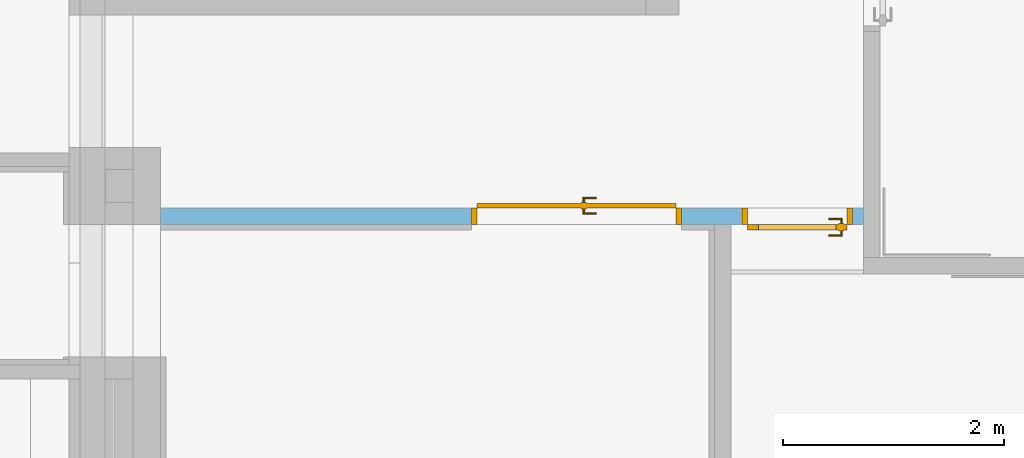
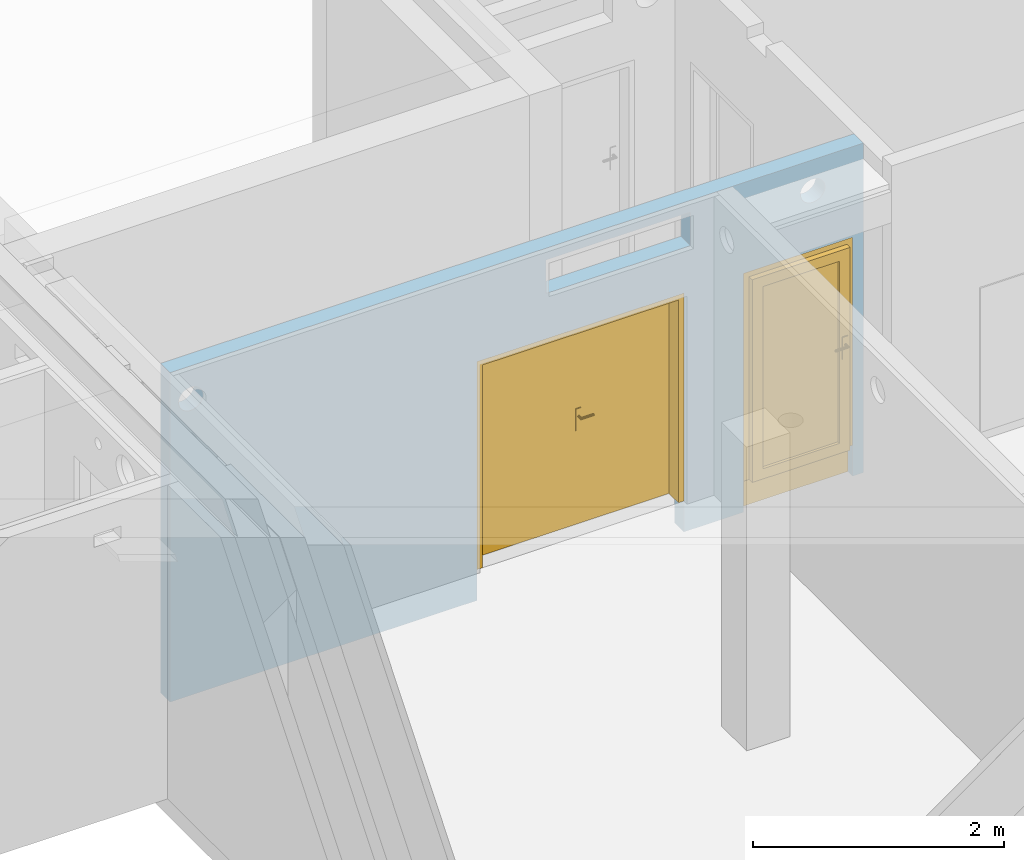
# One storey, part 72 of 84: 2 doors, 5 openings, plus 1 element that does not belong to this part.
"""IFC4 building model written with IfcOpenShell, lengths in metres."""

from ifc_helpers import new_model, entity, si_unit, converted_unit, derived_unit, frame, frame_2d, origin, origin_with_axes, place, context, subcontext, project, spatial, polyline, rectangle, outline, extrude, closed_shell, open_shell, surface_model, source, transform, mapped, material, layer, layer_set, layer_usage, type_object, element, fill, save


model = new_model("IFC4")

# Units and contexts
model_context = context("Model", 3, precision=1e-05, world=origin())
body_context = subcontext(model_context, "Body", "Model", "MODEL_VIEW")
ifc_project = project(units=[si_unit("LENGTHUNIT", "METRE"), si_unit("AREAUNIT", "SQUARE_METRE"), si_unit("VOLUMEUNIT", "CUBIC_METRE"), si_unit("MASSUNIT", "GRAM", prefix="KILO"), converted_unit("PLANEANGLEUNIT", "DEGREE", entity("IfcPlaneAngleMeasure", 0.0174532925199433), si_unit("PLANEANGLEUNIT", "RADIAN"), dimensions=[0, 0, 0, 0, 0, 0, 0]), derived_unit("THERMALTRANSMITTANCEUNIT", [(si_unit("POWERUNIT", "WATT"), 1), (si_unit("THERMODYNAMICTEMPERATUREUNIT", "KELVIN"), -1), (si_unit("LENGTHUNIT", "METRE"), -2)]), derived_unit("VOLUMETRICFLOWRATEUNIT", [(si_unit("LENGTHUNIT", "METRE"), 3), (converted_unit("TIMEUNIT", "hour", entity("IfcTimeMeasure", 3600.0), si_unit("TIMEUNIT", "SECOND"), dimensions=[0, 0, 1, 0, 0, 0, 0]), -1), (si_unit("LENGTHUNIT", "METRE"), -1)])], contexts=[model_context])

# Site, building, storey
site_placement = place(None, origin())
site = spatial("IfcSite", under=ifc_project, at=site_placement, Name="3. ASŘ", CompositionType="ELEMENT")
building_placement = place(site_placement, origin())
building = spatial("IfcBuilding", under=site, at=building_placement, Name="Pavilon C", CompositionType="ELEMENT")
storey_placement = place(building_placement, frame((0.0, 0.0, -3.3)))
storey = spatial("IfcBuildingStorey", under=building, at=storey_placement, Name="Půdorys 1.PP", CompositionType="ELEMENT", Elevation=-3.3)

# Wall, openings, doors
ifc_material = material(Name="SDK - 1 KCE + DVOJITÉ OPLÁŠTĚNÍ")
ifc_layer = layer(ifc_material, 0.15)
ifc_layer_set = layer_set([ifc_layer])
ifc_layer_usage = layer_usage(ifc_layer_set, "AXIS2", "POSITIVE", 0.0)
wall_placement = place(storey_placement, frame((58.35, 13.0, -0.3), z_axis=(0.0, 0.0, 1.0), x_axis=(-1.0, 0.0, 0.0)))
wall = element("IfcWall", 1, at=wall_placement, inside=storey, material=ifc_layer_usage, Name="SDK - 1 KCE + DVOJITÉ OPLÁŠTĚNÍ", context=body_context, shape_type="SweptSolid", body=[
    extrude(rectangle(XDim=6.36999999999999, YDim=0.15, at=frame_2d((3.18499999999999, 0.075), x_axis=(1.0, 0.0))), origin_with_axes(), (0.0, 0.0, 1.0), 3.2),
])
opening_1_placement = place(wall_placement, frame((1.1, 0.15, 0.0), z_axis=(0.0, -1.0, 0.0), x_axis=(0.0, 0.0, 1.0)))
opening_1 = element("IfcOpeningElement", 2, at=opening_1_placement, cuts=wall, Name="Dveřní otvor", ObjectType="Opening", context=body_context, shape_type="SweptSolid", body=[
    extrude(outline(polyline([(0.0, 1.0), (2.32, 1.0), (2.32, 0.0), (0.0, 0.0), (0.0, 1.0)])), origin_with_axes(), (0.0, 0.0, 1.0), 0.15),
])
opening_2_placement = place(wall_placement, frame((1.65, 0.0, 0.0), z_axis=(0.0, 1.0, 0.0), x_axis=(0.0, 0.0, 1.0)))
opening_2 = element("IfcOpeningElement", 3, at=opening_2_placement, cuts=wall, Name="Dveřní otvor", ObjectType="Opening", context=body_context, shape_type="SweptSolid", body=[
    extrude(outline(polyline([(0.0, 1.9), (2.32, 1.9), (2.32, 0.0), (0.0, 0.0), (0.0, 1.9)])), origin_with_axes(), (0.0, 0.0, 1.0), 0.15),
])
opening_3_placement = place(wall_placement, frame((1.59002042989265, 0.0, 2.76), z_axis=(0.0, 1.0, 0.0), x_axis=(0.0, 0.0, 1.0)))
element("IfcOpeningElement", 4, at=opening_3_placement, cuts=wall, Name="VZT", ObjectType="Opening", context=body_context, shape_type="SweptSolid", body=[
    extrude(outline(polyline([(0.0, 1.325), (0.325, 1.325), (0.325, 0.0), (0.0, 0.0), (0.0, 1.325)])), origin_with_axes(), (0.0, 0.0, 1.0), 0.15),
])
opening_4_placement = place(wall_placement, frame((0.353467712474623, 0.0, 2.7875), z_axis=(0.0, 1.0, 0.0), x_axis=(0.0, 0.0, 1.0)))
element("IfcOpeningElement", 5, at=opening_4_placement, cuts=wall, Name="VZT", ObjectType="Opening", context=body_context, shape_type="SweptSolid", body=[
    extrude(outline(polyline([(0.1125, 0.225), (0.124259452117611, 0.224383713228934), (0.135890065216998, 0.222541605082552), (0.147264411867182, 0.219493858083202), (0.158257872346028, 0.215273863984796), (0.16875, 0.209927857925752), (0.178625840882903, 0.203514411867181), (0.187777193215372, 0.196103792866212), (0.196103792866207, 0.18777719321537), (0.203514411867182, 0.178625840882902), (0.209927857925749, 0.16875), (0.215273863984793, 0.158257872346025), (0.219493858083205, 0.147264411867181), (0.222541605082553, 0.135890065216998), (0.224383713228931, 0.124259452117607), (0.225, 0.1125), (0.224383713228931, 0.100740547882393), (0.222541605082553, 0.0891099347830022), (0.219493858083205, 0.0777355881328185), (0.215273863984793, 0.0667421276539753), (0.209927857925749, 0.05625), (0.203514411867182, 0.0463741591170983), (0.196103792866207, 0.0372228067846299), (0.187777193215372, 0.0288962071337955), (0.178625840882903, 0.0214855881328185), (0.16875, 0.0150721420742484), (0.158257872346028, 0.00972613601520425), (0.147264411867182, 0.00550614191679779), (0.135890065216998, 0.00245839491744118), (0.124259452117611, 0.00061628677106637), (0.1125, 0.0), (0.100740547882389, 0.00061628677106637), (0.089109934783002, 0.00245839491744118), (0.0777355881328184, 0.00550614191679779), (0.0667421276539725, 0.00972613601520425), (0.05625, 0.0150721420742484), (0.0463741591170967, 0.0214855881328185), (0.0372228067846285, 0.0288962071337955), (0.0288962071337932, 0.0372228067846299), (0.0214855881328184, 0.0463741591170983), (0.0150721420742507, 0.05625), (0.00972613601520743, 0.0667421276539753), (0.00550614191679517, 0.0777355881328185), (0.00245839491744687, 0.0891099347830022), (0.000616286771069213, 0.100740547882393), (0.0, 0.1125), (0.000616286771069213, 0.124259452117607), (0.00245839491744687, 0.135890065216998), (0.00550614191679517, 0.147264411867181), (0.00972613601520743, 0.158257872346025), (0.0150721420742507, 0.16875), (0.0214855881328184, 0.178625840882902), (0.0288962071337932, 0.18777719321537), (0.0372228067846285, 0.196103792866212), (0.0463741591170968, 0.203514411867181), (0.05625, 0.209927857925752), (0.0667421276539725, 0.215273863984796), (0.0777355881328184, 0.219493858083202), (0.089109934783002, 0.222541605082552), (0.100740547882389, 0.224383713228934), (0.1125, 0.225)])), origin_with_axes(), (0.0, 0.0, 1.0), 0.15),
])
opening_5_placement = place(wall_placement, frame((6.0664062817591, 0.0, 2.7675), z_axis=(0.0, 1.0, 0.0), x_axis=(0.0, 0.0, 1.0)))
element("IfcOpeningElement", 6, at=opening_5_placement, cuts=wall, Name="VZT", ObjectType="Opening", context=body_context, shape_type="SweptSolid", body=[
    extrude(outline(polyline([(0.112499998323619, 0.225), (0.124259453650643, 0.2243837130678), (0.135890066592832, 0.222541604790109), (0.147264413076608, 0.219493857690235), (0.158257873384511, 0.21527386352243), (0.168750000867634, 0.209927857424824), (0.178625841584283, 0.203514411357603), (0.187777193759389, 0.196103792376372), (0.196103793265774, 0.187777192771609), (0.203514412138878, 0.178625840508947), (0.209927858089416, 0.168749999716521), (0.215273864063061, 0.158257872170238), (0.219493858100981, 0.147264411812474), (0.222541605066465, 0.13589006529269), (0.224383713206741, 0.124259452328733), (0.225, 0.112500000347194), (0.224383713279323, 0.100740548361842), (0.222541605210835, 0.0891099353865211), (0.219493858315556, 0.0777355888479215), (0.21527386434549, 0.0667421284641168), (0.209927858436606, 0.0562500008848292), (0.203514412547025, 0.0463741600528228), (0.196103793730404, 0.0372228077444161), (0.187777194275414, 0.0288962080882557), (0.178625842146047, 0.0214855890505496), (0.168750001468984, 0.0150721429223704), (0.158257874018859, 0.0097261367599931), (0.147264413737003, 0.00550614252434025), (0.135890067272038, 0.00245839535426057), (0.124259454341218, 0.000616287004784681), (0.11249999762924, 0.0), (0.100740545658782, 0.000616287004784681), (0.089109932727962, 0.00245839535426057), (0.0777355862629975, 0.00550614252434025), (0.0667421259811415, 0.0097261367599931), (0.0562499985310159, 0.0150721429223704), (0.0463741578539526, 0.0214855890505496), (0.0372228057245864, 0.0288962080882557), (0.0288962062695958, 0.0372228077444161), (0.0214855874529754, 0.0463741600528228), (0.015072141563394, 0.0562500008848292), (0.0097261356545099, 0.0667421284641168), (0.00550614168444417, 0.0777355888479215), (0.00245839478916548, 0.0891099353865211), (0.000616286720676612, 0.100740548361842), (0.0, 0.112500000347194), (0.000616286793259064, 0.124259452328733), (0.00245839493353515, 0.13589006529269), (0.00550614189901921, 0.147264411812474), (0.0097261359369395, 0.158257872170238), (0.0150721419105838, 0.168749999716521), (0.0214855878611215, 0.178625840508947), (0.0288962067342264, 0.187777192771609), (0.0372228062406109, 0.196103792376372), (0.0463741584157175, 0.203514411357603), (0.0562499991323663, 0.209927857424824), (0.0667421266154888, 0.21527386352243), (0.0777355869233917, 0.219493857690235), (0.0891099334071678, 0.222541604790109), (0.100740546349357, 0.2243837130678), (0.112499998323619, 0.225)])), origin_with_axes(), (0.0, 0.0, 1.0), 0.15),
])
door_type_1 = type_object("IfcDoorType", Name="I.D038", OperationType="NOTDEFINED", ParameterTakesPrecedence=False, PredefinedType="DOOR")
shared_shape_1 = source(origin_with_axes(), body_context, "Body", "SurfaceModel", [
    surface_model("IfcShellBasedSurfaceModel", [(0.0, 0.0749999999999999, 0.0), (1.0, 0.0749999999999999, 0.0), (1.0, 0.075, 0.3), (0.0, 0.075, 0.3)], [open_shell([[[0, 1, 2, 3]]], orient=[[False]])]),
    surface_model("IfcShellBasedSurfaceModel", [(0.0, 0.15, 2.32), (0.0, 0.15, 0.301), (0.05, 0.15, 0.301), (0.05, 0.15, 2.32), (0.0, 0.0, 0.301), (0.0, 2.55795384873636e-16, 2.32), (0.05, 2.55795384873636e-16, 2.32), (0.05, 0.0, 0.301)], [closed_shell([[[0, 1, 2, 3]], [[4, 5, 6, 7]], [[1, 0, 5, 4]], [[2, 1, 4, 7]], [[3, 2, 7, 6]], [[0, 3, 6, 5]]], orient=[[False], [False], [False], [False], [False], [False]])]),
    surface_model("IfcShellBasedSurfaceModel", [(0.95, 0.15, 2.32), (0.95, 0.15, 0.301), (1.0, 0.15, 0.301), (1.0, 0.15, 2.32), (0.95, 0.0, 0.301), (0.95, 2.55795384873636e-16, 2.32), (1.0, 2.55795384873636e-16, 2.32), (1.0, 0.0, 0.301)], [closed_shell([[[0, 1, 2, 3]], [[4, 5, 6, 7]], [[1, 0, 5, 4]], [[2, 1, 4, 7]], [[3, 2, 7, 6]], [[0, 3, 6, 5]]], orient=[[False], [False], [False], [False], [False], [False]])]),
    surface_model("IfcShellBasedSurfaceModel", [(0.05, 0.15, 2.32), (0.05, 0.15, 2.27), (0.95, 0.15, 2.27), (0.95, 0.15, 2.32), (0.05, 2.27373675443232e-16, 2.27), (0.05, 2.27373675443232e-16, 2.32), (0.95, 2.27373675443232e-16, 2.32), (0.95, 2.27373675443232e-16, 2.27)], [closed_shell([[[0, 1, 2, 3]], [[4, 5, 6, 7]], [[1, 0, 5, 4]], [[2, 1, 4, 7]], [[3, 2, 7, 6]], [[0, 3, 6, 5]]], orient=[[False], [False], [False], [False], [False], [False]])]),
    surface_model("IfcShellBasedSurfaceModel", [(0.05, 0.2, 2.27), (0.05, 0.2, 0.301), (0.15, 0.2, 0.301), (0.15, 0.2, 2.27), (0.05, 0.15, 0.301), (0.05, 0.15, 2.27), (0.15, 0.15, 2.27), (0.15, 0.15, 0.301)], [closed_shell([[[0, 1, 2, 3]], [[4, 5, 6, 7]], [[1, 0, 5, 4]], [[2, 1, 4, 7]], [[3, 2, 7, 6]], [[0, 3, 6, 5]]], orient=[[False], [False], [False], [False], [False], [False]])]),
    surface_model("IfcShellBasedSurfaceModel", [(0.85, 0.2, 2.27), (0.85, 0.2, 0.301), (0.95, 0.2, 0.301), (0.95, 0.2, 2.27), (0.85, 0.15, 0.301), (0.85, 0.15, 2.27), (0.95, 0.15, 2.27), (0.95, 0.15, 0.301)], [closed_shell([[[0, 1, 2, 3]], [[4, 5, 6, 7]], [[1, 0, 5, 4]], [[2, 1, 4, 7]], [[3, 2, 7, 6]], [[0, 3, 6, 5]]], orient=[[False], [False], [False], [False], [False], [False]])]),
    surface_model("IfcShellBasedSurfaceModel", [(0.15, 0.2, 0.401), (0.15, 0.2, 0.301), (0.85, 0.2, 0.301), (0.85, 0.2, 0.401), (0.15, 0.15, 0.301), (0.15, 0.15, 0.401), (0.85, 0.15, 0.401), (0.85, 0.15, 0.301)], [closed_shell([[[0, 1, 2, 3]], [[4, 5, 6, 7]], [[1, 0, 5, 4]], [[2, 1, 4, 7]], [[3, 2, 7, 6]], [[0, 3, 6, 5]]], orient=[[False], [False], [False], [False], [False], [False]])]),
    surface_model("IfcShellBasedSurfaceModel", [(0.15, 0.2, 2.27), (0.15, 0.2, 2.17), (0.85, 0.2, 2.17), (0.85, 0.2, 2.27), (0.15, 0.15, 2.17), (0.15, 0.15, 2.27), (0.85, 0.15, 2.27), (0.85, 0.15, 2.17)], [closed_shell([[[0, 1, 2, 3]], [[4, 5, 6, 7]], [[1, 0, 5, 4]], [[2, 1, 4, 7]], [[3, 2, 7, 6]], [[0, 3, 6, 5]]], orient=[[False], [False], [False], [False], [False], [False]])]),
    surface_model("IfcShellBasedSurfaceModel", [(0.875, 0.15, 1.426), (0.875, 0.15, 1.211), (0.925, 0.15, 1.211), (0.925, 0.15, 1.426), (0.875, 0.14, 1.211), (0.875, 0.14, 1.426), (0.925, 0.14, 1.426), (0.925, 0.14, 1.211)], [closed_shell([[[0, 1, 2, 3]], [[4, 5, 6, 7]], [[1, 0, 5, 4]], [[2, 1, 4, 7]], [[3, 2, 7, 6]], [[0, 3, 6, 5]]], orient=[[False], [False], [False], [False], [False], [False]])]),
    surface_model("IfcShellBasedSurfaceModel", [(0.9, 0.14, 1.361), (0.895, 0.14, 1.35966025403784), (0.891339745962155, 0.14, 1.356), (0.89, 0.14, 1.351), (0.891339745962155, 0.14, 1.346), (0.895, 0.14, 1.34233974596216), (0.9, 0.14, 1.341), (0.905, 0.14, 1.34233974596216), (0.908660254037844, 0.14, 1.346), (0.91, 0.14, 1.351), (0.908660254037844, 0.14, 1.356), (0.905, 0.14, 1.35966025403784), (0.905, 0.0950000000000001, 1.35966025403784), (0.9, 0.1, 1.361), (0.908660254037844, 0.0913397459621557, 1.356), (0.91, 0.0900000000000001, 1.351), (0.908660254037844, 0.0913397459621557, 1.346), (0.905, 0.0950000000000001, 1.34233974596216), (0.9, 0.1, 1.341), (0.895, 0.105, 1.34233974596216), (0.891339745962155, 0.108660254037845, 1.346), (0.89, 0.11, 1.351), (0.891339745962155, 0.108660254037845, 1.356), (0.895, 0.105, 1.35966025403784), (0.785, 0.0950000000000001, 1.35966025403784), (0.785, 0.1, 1.361), (0.785, 0.0913397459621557, 1.356), (0.785, 0.0900000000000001, 1.351), (0.785, 0.0913397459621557, 1.346), (0.785, 0.0950000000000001, 1.34233974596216), (0.785, 0.1, 1.341), (0.785, 0.105, 1.34233974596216), (0.785, 0.108660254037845, 1.346), (0.785, 0.11, 1.351), (0.785, 0.108660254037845, 1.356), (0.785, 0.105, 1.35966025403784)], [open_shell([[[0, 1, 2, 3, 4, 5, 6, 7, 8, 9, 10, 11]], [[0, 11, 12, 13]], [[11, 10, 14, 12]], [[10, 9, 15, 14]], [[9, 8, 16, 15]], [[8, 7, 17, 16]], [[7, 6, 18, 17]], [[6, 5, 19, 18]], [[5, 4, 20, 19]], [[4, 3, 21, 20]], [[3, 2, 22, 21]], [[2, 1, 23, 22]], [[1, 0, 13, 23]], [[13, 12, 24, 25]], [[12, 14, 26, 24]], [[14, 15, 27, 26]], [[15, 16, 28, 27]], [[16, 17, 29, 28]], [[17, 18, 30, 29]], [[18, 19, 31, 30]], [[19, 20, 32, 31]], [[20, 21, 33, 32]], [[21, 22, 34, 33]], [[22, 23, 35, 34]], [[23, 13, 25, 35]]], orient=[[False], [False], [False], [False], [False], [False], [False], [False], [False], [False], [False], [False], [False], [False], [False], [False], [False], [False], [False], [False], [False], [False], [False], [False], [False]])]),
    surface_model("IfcShellBasedSurfaceModel", [(0.875, 0.2, 1.426), (0.925, 0.2, 1.426), (0.925, 0.2, 1.211), (0.875, 0.2, 1.211), (0.875, 0.21, 1.211), (0.925, 0.21, 1.211), (0.925, 0.21, 1.426), (0.875, 0.21, 1.426)], [closed_shell([[[0, 1, 2, 3]], [[4, 5, 6, 7]], [[3, 4, 7, 0]], [[2, 5, 4, 3]], [[1, 6, 5, 2]], [[0, 7, 6, 1]]], orient=[[False], [False], [False], [False], [False], [False]])]),
    surface_model("IfcShellBasedSurfaceModel", [(0.9, 0.21, 1.361), (0.905, 0.21, 1.35966025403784), (0.908660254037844, 0.21, 1.356), (0.91, 0.21, 1.351), (0.908660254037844, 0.21, 1.346), (0.905, 0.21, 1.34233974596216), (0.9, 0.21, 1.341), (0.895, 0.21, 1.34233974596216), (0.891339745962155, 0.21, 1.346), (0.89, 0.21, 1.351), (0.891339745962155, 0.21, 1.356), (0.895, 0.21, 1.35966025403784), (0.9, 0.25, 1.361), (0.905, 0.255, 1.35966025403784), (0.908660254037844, 0.258660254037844, 1.356), (0.91, 0.26, 1.351), (0.908660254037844, 0.258660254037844, 1.346), (0.905, 0.255, 1.34233974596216), (0.9, 0.25, 1.341), (0.895, 0.245, 1.34233974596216), (0.891339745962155, 0.241339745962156, 1.346), (0.89, 0.24, 1.351), (0.891339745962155, 0.241339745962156, 1.356), (0.895, 0.245, 1.35966025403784), (0.785, 0.25, 1.361), (0.785, 0.255, 1.35966025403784), (0.785, 0.258660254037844, 1.356), (0.785, 0.26, 1.351), (0.785, 0.258660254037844, 1.346), (0.785, 0.255, 1.34233974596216), (0.785, 0.25, 1.341), (0.785, 0.245, 1.34233974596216), (0.785, 0.241339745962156, 1.346), (0.785, 0.24, 1.351), (0.785, 0.241339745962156, 1.356), (0.785, 0.245, 1.35966025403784)], [open_shell([[[0, 1, 2, 3, 4, 5, 6, 7, 8, 9, 10, 11]], [[0, 12, 13, 1]], [[1, 13, 14, 2]], [[2, 14, 15, 3]], [[3, 15, 16, 4]], [[4, 16, 17, 5]], [[5, 17, 18, 6]], [[6, 18, 19, 7]], [[7, 19, 20, 8]], [[8, 20, 21, 9]], [[9, 21, 22, 10]], [[10, 22, 23, 11]], [[11, 23, 12, 0]], [[12, 24, 25, 13]], [[13, 25, 26, 14]], [[14, 26, 27, 15]], [[15, 27, 28, 16]], [[16, 28, 29, 17]], [[17, 29, 30, 18]], [[18, 30, 31, 19]], [[19, 31, 32, 20]], [[20, 32, 33, 21]], [[21, 33, 34, 22]], [[22, 34, 35, 23]], [[23, 35, 24, 12]]], orient=[[False], [False], [False], [False], [False], [False], [False], [False], [False], [False], [False], [False], [False], [False], [False], [False], [False], [False], [False], [False], [False], [False], [False], [False], [False]])]),
    surface_model("IfcShellBasedSurfaceModel", [(0.15, 0.175, 0.401), (0.85, 0.175, 0.401), (0.85, 0.175, 2.17), (0.15, 0.175, 2.17)], [open_shell([[[0, 1, 2, 3]]], orient=[[False]])]),
])
door_1_placement = place(opening_1_placement, frame((0.0, 0.0, 0.15), z_axis=(1.0, 0.0, 0.0), x_axis=(0.0, 1.0, -1.22464679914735e-16)))
door_1 = element("IfcDoor", 7, at=door_1_placement, inside=storey, type_object=door_type_1, Name="I.D038", OverallHeight=2.32, OverallWidth=1.0, context=body_context, shape_type="MappedRepresentation", body=[
    mapped(shared_shape_1, transform((0.0, 0.0, 0.0), x_axis=(1.0, 0.0, 0.0), y_axis=(0.0, -1.0, 0.0), z_axis=(0.0, 0.0, 1.0), scale=1.0)),
])
fill(opening_1, door_1)
door_type_2 = type_object("IfcDoorType", Name="I.D037", OperationType="NOTDEFINED", ParameterTakesPrecedence=False, PredefinedType="DOOR")
shared_shape_2 = source(origin_with_axes(), body_context, "Body", "SurfaceModel", [
    surface_model("IfcShellBasedSurfaceModel", [(0.0, 0.15, 2.019), (0.0, 0.15, -5.6843418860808e-17), (0.05, 0.15, -5.6843418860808e-17), (0.05, 0.15, 2.019), (0.0, 0.0, -5.6843418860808e-17), (0.0, 2.55795384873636e-16, 2.019), (0.05, 2.55795384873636e-16, 2.019), (0.05, 0.0, -5.6843418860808e-17)], [closed_shell([[[0, 1, 2, 3]], [[4, 5, 6, 7]], [[1, 0, 5, 4]], [[2, 1, 4, 7]], [[3, 2, 7, 6]], [[0, 3, 6, 5]]], orient=[[False], [False], [False], [False], [False], [False]])]),
    surface_model("IfcShellBasedSurfaceModel", [(1.85, 0.15, 2.019), (1.85, 0.15, -5.6843418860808e-17), (1.9, 0.15, -5.6843418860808e-17), (1.9, 0.15, 2.019), (1.85, 0.0, -5.6843418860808e-17), (1.85, 2.55795384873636e-16, 2.019), (1.9, 2.55795384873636e-16, 2.019), (1.9, 0.0, -5.6843418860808e-17)], [closed_shell([[[0, 1, 2, 3]], [[4, 5, 6, 7]], [[1, 0, 5, 4]], [[2, 1, 4, 7]], [[3, 2, 7, 6]], [[0, 3, 6, 5]]], orient=[[False], [False], [False], [False], [False], [False]])]),
    surface_model("IfcShellBasedSurfaceModel", [(0.05, 0.15, 2.019), (0.05, 0.15, 1.969), (1.85, 0.15, 1.969), (1.85, 0.15, 2.019), (0.05, 2.27373675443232e-16, 1.969), (0.05, 2.27373675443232e-16, 2.019), (1.85, 2.27373675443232e-16, 2.019), (1.85, 2.27373675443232e-16, 1.969)], [closed_shell([[[0, 1, 2, 3]], [[4, 5, 6, 7]], [[1, 0, 5, 4]], [[2, 1, 4, 7]], [[3, 2, 7, 6]], [[0, 3, 6, 5]]], orient=[[False], [False], [False], [False], [False], [False]])]),
    surface_model("IfcShellBasedSurfaceModel", [(0.05, 0.19, 1.969), (0.05, 0.19, -5.6843418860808e-17), (0.9495, 0.19, -5.6843418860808e-17), (0.9495, 0.19, 1.969), (0.05, 0.15, -5.6843418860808e-17), (0.05, 0.15, 1.969), (0.9495, 0.15, 1.969), (0.9495, 0.15, -5.6843418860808e-17)], [closed_shell([[[0, 1, 2, 3]], [[4, 5, 6, 7]], [[1, 0, 5, 4]], [[2, 1, 4, 7]], [[3, 2, 7, 6]], [[0, 3, 6, 5]]], orient=[[False], [False], [False], [False], [False], [False]])]),
    surface_model("IfcShellBasedSurfaceModel", [(0.8595, 0.15, 1.125), (0.8595, 0.15, 0.91), (0.9095, 0.15, 0.91), (0.9095, 0.15, 1.125), (0.8595, 0.14, 0.91), (0.8595, 0.14, 1.125), (0.9095, 0.14, 1.125), (0.9095, 0.14, 0.91)], [closed_shell([[[0, 1, 2, 3]], [[4, 5, 6, 7]], [[1, 0, 5, 4]], [[2, 1, 4, 7]], [[3, 2, 7, 6]], [[0, 3, 6, 5]]], orient=[[False], [False], [False], [False], [False], [False]])]),
    surface_model("IfcShellBasedSurfaceModel", [(0.8845, 0.14, 1.06), (0.8795, 0.14, 1.05866025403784), (0.875839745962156, 0.14, 1.055), (0.8745, 0.14, 1.05), (0.875839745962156, 0.14, 1.045), (0.8795, 0.14, 1.04133974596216), (0.8845, 0.14, 1.04), (0.8895, 0.14, 1.04133974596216), (0.893160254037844, 0.14, 1.045), (0.8945, 0.14, 1.05), (0.893160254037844, 0.14, 1.055), (0.8895, 0.14, 1.05866025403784), (0.8895, 0.0950000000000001, 1.05866025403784), (0.8845, 0.1, 1.06), (0.893160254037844, 0.0913397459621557, 1.055), (0.8945, 0.0900000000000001, 1.05), (0.893160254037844, 0.0913397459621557, 1.045), (0.8895, 0.0950000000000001, 1.04133974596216), (0.8845, 0.1, 1.04), (0.8795, 0.105, 1.04133974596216), (0.875839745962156, 0.108660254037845, 1.045), (0.8745, 0.11, 1.05), (0.875839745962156, 0.108660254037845, 1.055), (0.8795, 0.105, 1.05866025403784), (0.7695, 0.0950000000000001, 1.05866025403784), (0.7695, 0.1, 1.06), (0.7695, 0.0913397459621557, 1.055), (0.7695, 0.0900000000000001, 1.05), (0.7695, 0.0913397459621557, 1.045), (0.7695, 0.0950000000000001, 1.04133974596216), (0.7695, 0.1, 1.04), (0.7695, 0.105, 1.04133974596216), (0.7695, 0.108660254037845, 1.045), (0.7695, 0.11, 1.05), (0.7695, 0.108660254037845, 1.055), (0.7695, 0.105, 1.05866025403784)], [open_shell([[[0, 1, 2, 3, 4, 5, 6, 7, 8, 9, 10, 11]], [[0, 11, 12, 13]], [[11, 10, 14, 12]], [[10, 9, 15, 14]], [[9, 8, 16, 15]], [[8, 7, 17, 16]], [[7, 6, 18, 17]], [[6, 5, 19, 18]], [[5, 4, 20, 19]], [[4, 3, 21, 20]], [[3, 2, 22, 21]], [[2, 1, 23, 22]], [[1, 0, 13, 23]], [[13, 12, 24, 25]], [[12, 14, 26, 24]], [[14, 15, 27, 26]], [[15, 16, 28, 27]], [[16, 17, 29, 28]], [[17, 18, 30, 29]], [[18, 19, 31, 30]], [[19, 20, 32, 31]], [[20, 21, 33, 32]], [[21, 22, 34, 33]], [[22, 23, 35, 34]], [[23, 13, 25, 35]]], orient=[[False], [False], [False], [False], [False], [False], [False], [False], [False], [False], [False], [False], [False], [False], [False], [False], [False], [False], [False], [False], [False], [False], [False], [False], [False]])]),
    surface_model("IfcShellBasedSurfaceModel", [(0.8595, 0.19, 1.125), (0.9095, 0.19, 1.125), (0.9095, 0.19, 0.91), (0.8595, 0.19, 0.91), (0.8595, 0.2, 0.91), (0.9095, 0.2, 0.91), (0.9095, 0.2, 1.125), (0.8595, 0.2, 1.125)], [closed_shell([[[0, 1, 2, 3]], [[4, 5, 6, 7]], [[3, 4, 7, 0]], [[2, 5, 4, 3]], [[1, 6, 5, 2]], [[0, 7, 6, 1]]], orient=[[False], [False], [False], [False], [False], [False]])]),
    surface_model("IfcShellBasedSurfaceModel", [(0.8845, 0.2, 1.06), (0.8895, 0.2, 1.05866025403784), (0.893160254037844, 0.2, 1.055), (0.8945, 0.2, 1.05), (0.893160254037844, 0.2, 1.045), (0.8895, 0.2, 1.04133974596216), (0.8845, 0.2, 1.04), (0.8795, 0.2, 1.04133974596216), (0.875839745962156, 0.2, 1.045), (0.8745, 0.2, 1.05), (0.875839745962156, 0.2, 1.055), (0.8795, 0.2, 1.05866025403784), (0.8845, 0.24, 1.06), (0.8895, 0.245, 1.05866025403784), (0.893160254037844, 0.248660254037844, 1.055), (0.8945, 0.25, 1.05), (0.893160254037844, 0.248660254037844, 1.045), (0.8895, 0.245, 1.04133974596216), (0.8845, 0.24, 1.04), (0.8795, 0.235, 1.04133974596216), (0.875839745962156, 0.231339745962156, 1.045), (0.8745, 0.23, 1.05), (0.875839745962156, 0.231339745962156, 1.055), (0.8795, 0.235, 1.05866025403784), (0.7695, 0.24, 1.06), (0.7695, 0.245, 1.05866025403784), (0.7695, 0.248660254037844, 1.055), (0.7695, 0.25, 1.05), (0.7695, 0.248660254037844, 1.045), (0.7695, 0.245, 1.04133974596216), (0.7695, 0.24, 1.04), (0.7695, 0.235, 1.04133974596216), (0.7695, 0.231339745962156, 1.045), (0.7695, 0.23, 1.05), (0.7695, 0.231339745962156, 1.055), (0.7695, 0.235, 1.05866025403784)], [open_shell([[[0, 1, 2, 3, 4, 5, 6, 7, 8, 9, 10, 11]], [[0, 12, 13, 1]], [[1, 13, 14, 2]], [[2, 14, 15, 3]], [[3, 15, 16, 4]], [[4, 16, 17, 5]], [[5, 17, 18, 6]], [[6, 18, 19, 7]], [[7, 19, 20, 8]], [[8, 20, 21, 9]], [[9, 21, 22, 10]], [[10, 22, 23, 11]], [[11, 23, 12, 0]], [[12, 24, 25, 13]], [[13, 25, 26, 14]], [[14, 26, 27, 15]], [[15, 27, 28, 16]], [[16, 28, 29, 17]], [[17, 29, 30, 18]], [[18, 30, 31, 19]], [[19, 31, 32, 20]], [[20, 32, 33, 21]], [[21, 33, 34, 22]], [[22, 34, 35, 23]], [[23, 35, 24, 12]]], orient=[[False], [False], [False], [False], [False], [False], [False], [False], [False], [False], [False], [False], [False], [False], [False], [False], [False], [False], [False], [False], [False], [False], [False], [False], [False]])]),
    surface_model("IfcShellBasedSurfaceModel", [(0.9505, 0.19, 1.969), (0.9505, 0.19, -5.6843418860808e-17), (1.85, 0.19, -5.6843418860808e-17), (1.85, 0.19, 1.969), (0.9505, 0.15, -5.6843418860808e-17), (0.9505, 0.15, 1.969), (1.85, 0.15, 1.969), (1.85, 0.15, -5.6843418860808e-17)], [closed_shell([[[0, 1, 2, 3]], [[4, 5, 6, 7]], [[1, 0, 5, 4]], [[2, 1, 4, 7]], [[3, 2, 7, 6]], [[0, 3, 6, 5]]], orient=[[False], [False], [False], [False], [False], [False]])]),
])
door_2_placement = place(opening_2_placement, frame((0.301, 0.0, 0.15), z_axis=(1.0, 0.0, 0.0), x_axis=(0.0, 1.0, -2.44929359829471e-16)))
door_2 = element("IfcDoor", 8, at=door_2_placement, inside=storey, type_object=door_type_2, Name="I.D037", OverallHeight=2.32, OverallWidth=1.9, context=body_context, shape_type="MappedRepresentation", body=[
    mapped(shared_shape_2, transform((0.0, 0.0, 0.0), x_axis=(1.0, 0.0, 0.0), y_axis=(0.0, -1.0, 0.0), z_axis=(0.0, 0.0, 1.0), scale=1.0)),
])
fill(opening_2, door_2)

save(model, "model.ifc")
